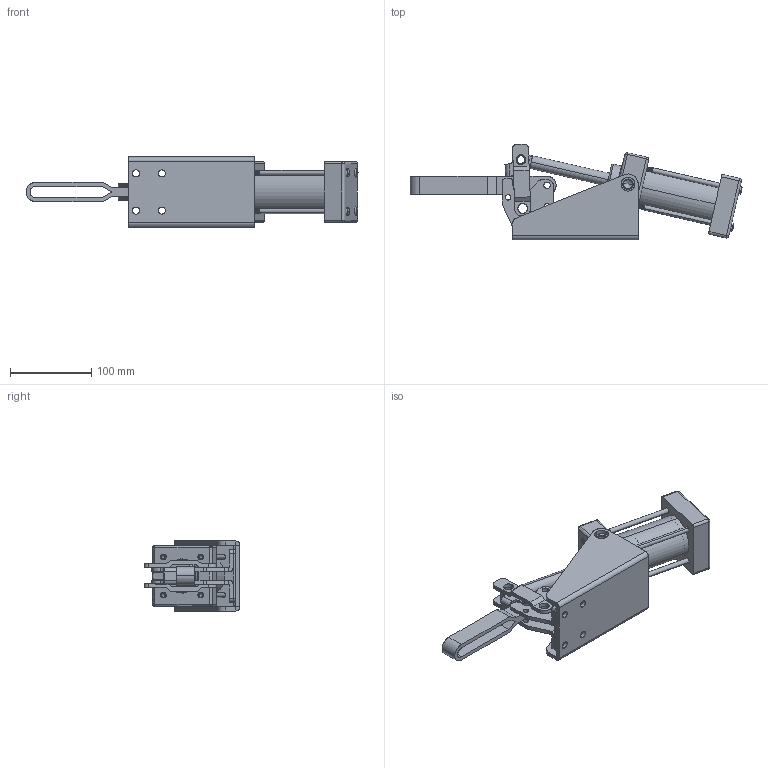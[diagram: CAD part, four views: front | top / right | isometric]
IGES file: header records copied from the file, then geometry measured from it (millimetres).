
Start section: SolidWorks IGES file using analytic representation for surfaces
Global section: file name: D:\GH Files\GH-SW-FILES\GH-A\10247A\10247A.IGS; native system: SolidWorks 2006 by SolidWorks Corporation; preprocessor: SolidWorks 2006 by SolidWorks Corporation; author: Administrator; date: 060526.115649; units: millimetre
Bounding box: 408.25 x 117.9 x 86.1 mm (x, y, z)
Surface area: 227077.2 mm2 (no closed solid volume)
Topology: 0 solids, 0 shells, 938 faces, 9614 edges, 9580 vertices
Faces by surface type: revolution 718, bspline 220
